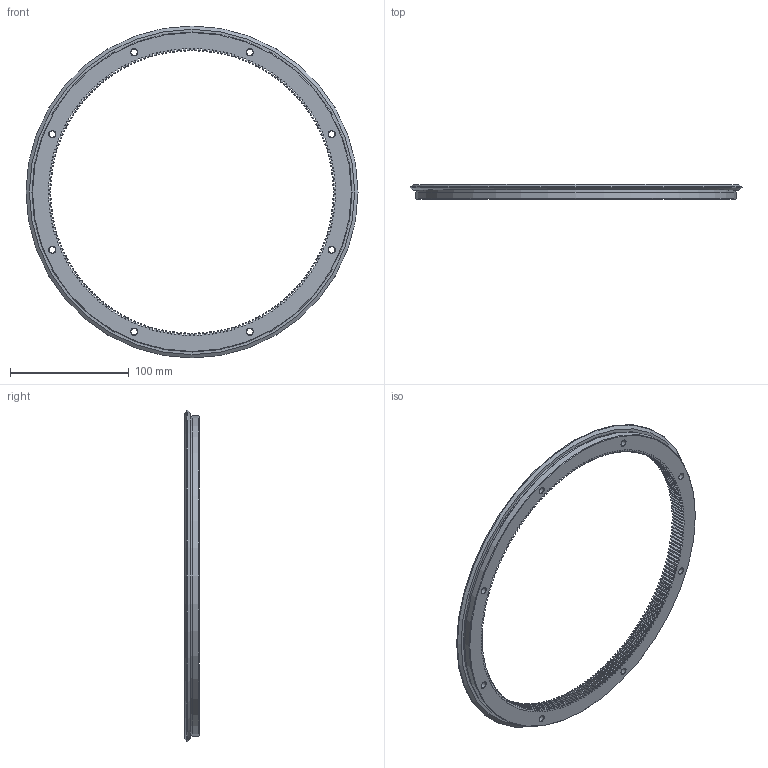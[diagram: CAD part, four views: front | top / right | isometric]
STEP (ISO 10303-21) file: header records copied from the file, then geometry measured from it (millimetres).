
FILE_DESCRIPTION( ( 'STEP AP203' ), '1' );
FILE_NAME( 'p:/temp/worker_73/temp/exporttempdir_2788_285_7VcZx/format_0/RES 280 R360 Q.stp', '2021-08-30T05:08:36', ( 'License CC BY-ND 4.0' ), ( 'CADENAS' ), ' ', 'PARTsolutions', ' ' );
FILE_SCHEMA( ( 'CONFIG_CONTROL_DESIGN' ) );
Length unit declared in the file: millimetre
Products named in the file (1): _RES 280 R360 Q
Bounding box: 280 x 12.25 x 280 mm (x, y, z)
Volume: 156787.9 mm3; surface area: 60907.5 mm2
Topology: 1 solids, 1 shells, 1242 faces, 3679 edges, 2449 vertices
Faces by surface type: cylinder 498, plane 492, cone 251, torus 1
Full cylindrical faces by diameter (mm): 5.5 x8, 10 x8, 268.8 x1, 270 x1
Entity records: 42278 total; most frequent: CARTESIAN_POINT 8782, ORIENTED_EDGE 7298, DIRECTION 6904, EDGE_CURVE 3649, AXIS2_PLACEMENT_3D 2492, VERTEX_POINT 2450, LINE 1920, VECTOR 1920
